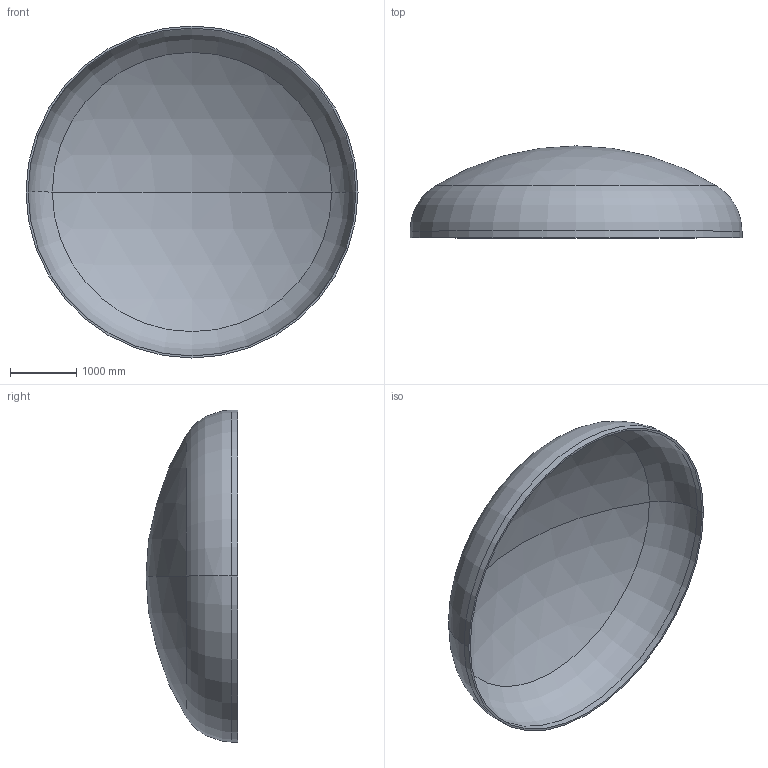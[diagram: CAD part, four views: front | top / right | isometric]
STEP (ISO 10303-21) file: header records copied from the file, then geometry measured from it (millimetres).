
FILE_DESCRIPTION (( 'STEP AP203' ), '1' );
FILE_NAME ('DIN 28013 Korbbogenform_-_Boden DIN 28013 - 5000 x 100 - I - s=31.step', '2016-07-02T00:20:22', ( '' ), ( '' ), 'SwSTEP 2.0', 'SolidWorks 2013', '' );
FILE_SCHEMA (( 'CONFIG_CONTROL_DESIGN' ));
Length unit declared in the file: millimetre
Products named in the file (1): DIN 28013 Korbbogenform_-_Boden DIN 28013 - 5000 x 100 - I - s=31
Bounding box: 5000 x 1383.95 x 5000 mm (x, y, z)
Volume: 884545657.6 mm3; surface area: 57553380.1 mm2
Topology: 1 solids, 1 shells, 13 faces, 24 edges, 14 vertices
Faces by surface type: torus 4, cylinder 4, sphere 4, plane 1
Entity records: 407 total; most frequent: DIRECTION 72, CARTESIAN_POINT 52, ORIENTED_EDGE 48, AXIS2_PLACEMENT_3D 34, EDGE_CURVE 24, CIRCLE 20, EDGE_LOOP 14, VERTEX_POINT 14
